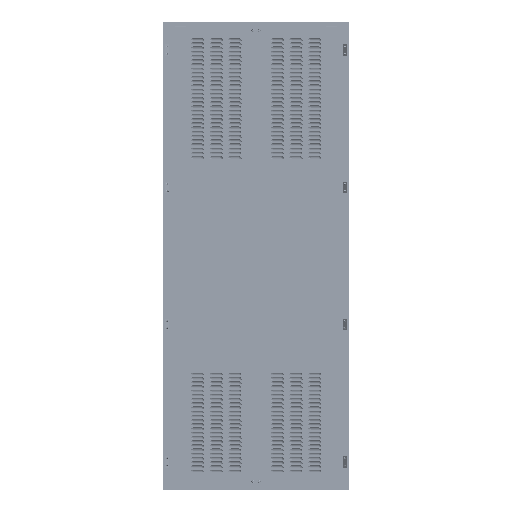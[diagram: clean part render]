
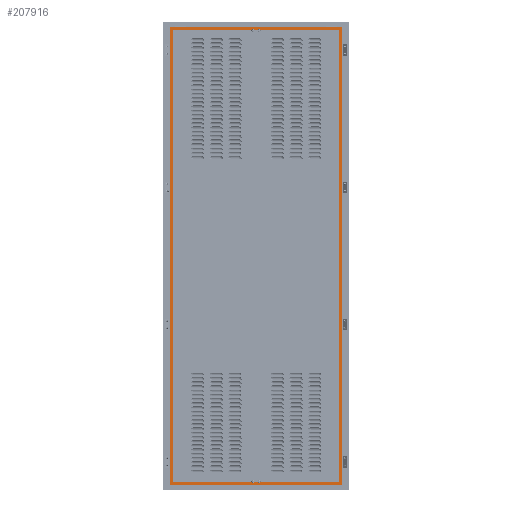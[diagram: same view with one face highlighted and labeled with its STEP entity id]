
A CAD part, top view. The second image highlights one B-rep face of the part: STEP entity #207916.
In plain terms, the highlighted planar face has unit normal (0, 0, 1).
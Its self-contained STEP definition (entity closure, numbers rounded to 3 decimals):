
#245 = VERTEX_POINT ( 'NONE', #62206 ) ;
#338 = CARTESIAN_POINT ( 'NONE',  ( -354.175, -1755.458, -2.05 ) ) ;
#970 = VERTEX_POINT ( 'NONE', #139896 ) ;
#2300 = ORIENTED_EDGE ( 'NONE', *, *, #21486, .F. ) ;
#2507 = VECTOR ( 'NONE', #90083, 1000. ) ;
#3404 = DIRECTION ( 'NONE',  ( -1., 0., 0. ) ) ;
#4337 = EDGE_CURVE ( 'NONE', #58758, #39083, #163781, .T. ) ;
#6996 = DIRECTION ( 'NONE',  ( 0., 1., 0. ) ) ;
#13794 = EDGE_CURVE ( 'NONE', #85144, #172228, #188588, .T. ) ;
#17428 = CARTESIAN_POINT ( 'NONE',  ( -354.175, -43.458, -2.05 ) ) ;
#18117 = AXIS2_PLACEMENT_3D ( 'NONE', #155357, #139000, #36655 ) ;
#20815 = EDGE_CURVE ( 'NONE', #138868, #970, #87721, .T. ) ;
#21486 = EDGE_CURVE ( 'NONE', #62301, #138868, #110222, .T. ) ;
#22403 = CARTESIAN_POINT ( 'NONE',  ( -354.175, -1764.134, -2.05 ) ) ;
#22418 = FACE_BOUND ( 'NONE', #49782, .T. ) ;
#26244 = CARTESIAN_POINT ( 'NONE',  ( 145.5, 165.217, -2.05 ) ) ;
#28041 = VECTOR ( 'NONE', #115822, 1000. ) ;
#28779 = LINE ( 'NONE', #198683, #28041 ) ;
#34122 = DIRECTION ( 'NONE',  ( 0., -1., 0. ) ) ;
#35149 = LINE ( 'NONE', #101636, #79868 ) ;
#35965 = CARTESIAN_POINT ( 'NONE',  ( -354.175, -1778.258, -2.05 ) ) ;
#36655 = DIRECTION ( 'NONE',  ( 1., 0., 0. ) ) ;
#36976 = LINE ( 'NONE', #103450, #122681 ) ;
#37716 = PLANE ( 'NONE',  #18117 ) ;
#37767 = EDGE_CURVE ( 'NONE', #190667, #149673, #36976, .T. ) ;
#39083 = VERTEX_POINT ( 'NONE', #124060 ) ;
#41376 = VECTOR ( 'NONE', #59028, 1000. ) ;
#47045 = EDGE_CURVE ( 'NONE', #245, #135831, #102459, .T. ) ;
#49782 = EDGE_LOOP ( 'NONE', ( #167086, #62469, #190476, #109336, #2300, #106364, #148460, #165712, #137804, #98719, #112848, #155671 ) ) ;
#50152 = EDGE_CURVE ( 'NONE', #202517, #66360, #121841, .T. ) ;
#51468 = CARTESIAN_POINT ( 'NONE',  ( 354.175, -1764.134, -2.05 ) ) ;
#52183 = ORIENTED_EDGE ( 'NONE', *, *, #4337, .F. ) ;
#58758 = VERTEX_POINT ( 'NONE', #164891 ) ;
#59028 = DIRECTION ( 'NONE',  ( 0., 1., 0. ) ) ;
#61647 = ORIENTED_EDGE ( 'NONE', *, *, #146325, .F. ) ;
#62206 = CARTESIAN_POINT ( 'NONE',  ( -354.175, -1755.458, -2.05 ) ) ;
#62301 = VERTEX_POINT ( 'NONE', #51468 ) ;
#62469 = ORIENTED_EDGE ( 'NONE', *, *, #13794, .F. ) ;
#64364 = DIRECTION ( 'NONE',  ( 0., -1., 0. ) ) ;
#65013 = ORIENTED_EDGE ( 'NONE', *, *, #213174, .F. ) ;
#66360 = VERTEX_POINT ( 'NONE', #171417 ) ;
#72541 = FACE_OUTER_BOUND ( 'NONE', #190201, .T. ) ;
#75343 = CARTESIAN_POINT ( 'NONE',  ( -145.5, -1764.134, -2.05 ) ) ;
#79868 = VECTOR ( 'NONE', #165927, 1000. ) ;
#79886 = DIRECTION ( 'NONE',  ( 0., -1., 0. ) ) ;
#85005 = LINE ( 'NONE', #17428, #141580 ) ;
#85144 = VERTEX_POINT ( 'NONE', #96985 ) ;
#87721 = LINE ( 'NONE', #89856, #204746 ) ;
#89185 = CARTESIAN_POINT ( 'NONE',  ( -354.175, -43.458, -2.05 ) ) ;
#89856 = CARTESIAN_POINT ( 'NONE',  ( 354.175, -1755.458, -2.05 ) ) ;
#90083 = DIRECTION ( 'NONE',  ( 0., 1., 0. ) ) ;
#95167 = LINE ( 'NONE', #161598, #113936 ) ;
#96985 = CARTESIAN_POINT ( 'NONE',  ( 354.175, 165.217, -2.05 ) ) ;
#98719 = ORIENTED_EDGE ( 'NONE', *, *, #115142, .F. ) ;
#101636 = CARTESIAN_POINT ( 'NONE',  ( 145.5, -1764.134, -2.05 ) ) ;
#102459 = LINE ( 'NONE', #35965, #131077 ) ;
#103450 = CARTESIAN_POINT ( 'NONE',  ( 0., -1764.134, -2.05 ) ) ;
#104957 = LINE ( 'NONE', #154015, #151102 ) ;
#106364 = ORIENTED_EDGE ( 'NONE', *, *, #215676, .F. ) ;
#109336 = ORIENTED_EDGE ( 'NONE', *, *, #20815, .F. ) ;
#109831 = VERTEX_POINT ( 'NONE', #200362 ) ;
#110222 = LINE ( 'NONE', #126547, #41376 ) ;
#112848 = ORIENTED_EDGE ( 'NONE', *, *, #167020, .F. ) ;
#113936 = VECTOR ( 'NONE', #79886, 1000. ) ;
#114209 = VECTOR ( 'NONE', #124340, 1000. ) ;
#115142 = EDGE_CURVE ( 'NONE', #125816, #245, #116918, .T. ) ;
#115822 = DIRECTION ( 'NONE',  ( -1., 0., 0. ) ) ;
#116918 = LINE ( 'NONE', #338, #151398 ) ;
#121841 = LINE ( 'NONE', #205776, #124952 ) ;
#122681 = VECTOR ( 'NONE', #157827, 1000. ) ;
#124060 = CARTESIAN_POINT ( 'NONE',  ( 366.117, 177.159, -2.05 ) ) ;
#124340 = DIRECTION ( 'NONE',  ( 1., 0., 0. ) ) ;
#124952 = VECTOR ( 'NONE', #185111, 1000. ) ;
#125431 = LINE ( 'NONE', #75343, #114209 ) ;
#125463 = CARTESIAN_POINT ( 'NONE',  ( -145.5, -1764.134, -2.05 ) ) ;
#125816 = VERTEX_POINT ( 'NONE', #89185 ) ;
#126547 = CARTESIAN_POINT ( 'NONE',  ( 354.175, -1778.258, -2.05 ) ) ;
#127035 = LINE ( 'NONE', #189206, #2507 ) ;
#129439 = LINE ( 'NONE', #146873, #185981 ) ;
#130465 = CARTESIAN_POINT ( 'NONE',  ( 145.5, -1764.134, -2.05 ) ) ;
#131077 = VECTOR ( 'NONE', #134019, 1000. ) ;
#131264 = EDGE_CURVE ( 'NONE', #135831, #190667, #125431, .T. ) ;
#134019 = DIRECTION ( 'NONE',  ( 0., -1., 0. ) ) ;
#135831 = VERTEX_POINT ( 'NONE', #22403 ) ;
#137804 = ORIENTED_EDGE ( 'NONE', *, *, #47045, .F. ) ;
#138868 = VERTEX_POINT ( 'NONE', #145472 ) ;
#139000 = DIRECTION ( 'NONE',  ( 0., 0., 1. ) ) ;
#139896 = CARTESIAN_POINT ( 'NONE',  ( 354.175, -43.458, -2.05 ) ) ;
#141195 = CARTESIAN_POINT ( 'NONE',  ( -354.175, 165.217, -2.05 ) ) ;
#141580 = VECTOR ( 'NONE', #64364, 1000. ) ;
#145472 = CARTESIAN_POINT ( 'NONE',  ( 354.175, -1755.458, -2.05 ) ) ;
#146325 = EDGE_CURVE ( 'NONE', #66360, #58758, #127035, .T. ) ;
#146873 = CARTESIAN_POINT ( 'NONE',  ( 354.175, -43.458, -2.05 ) ) ;
#148460 = ORIENTED_EDGE ( 'NONE', *, *, #37767, .F. ) ;
#149673 = VERTEX_POINT ( 'NONE', #130465 ) ;
#151102 = VECTOR ( 'NONE', #203085, 1000. ) ;
#151398 = VECTOR ( 'NONE', #34122, 1000. ) ;
#154015 = CARTESIAN_POINT ( 'NONE',  ( 145.5, 165.217, -2.05 ) ) ;
#155357 = CARTESIAN_POINT ( 'NONE',  ( 0., 0., -2.05 ) ) ;
#155671 = ORIENTED_EDGE ( 'NONE', *, *, #170950, .F. ) ;
#155989 = CARTESIAN_POINT ( 'NONE',  ( 366.117, -1776.076, -2.05 ) ) ;
#157827 = DIRECTION ( 'NONE',  ( 1., 0., 0. ) ) ;
#161598 = CARTESIAN_POINT ( 'NONE',  ( 366.117, 0., -2.05 ) ) ;
#163781 = LINE ( 'NONE', #208560, #185550 ) ;
#164891 = CARTESIAN_POINT ( 'NONE',  ( -366.117, 177.159, -2.05 ) ) ;
#165712 = ORIENTED_EDGE ( 'NONE', *, *, #131264, .F. ) ;
#165927 = DIRECTION ( 'NONE',  ( 1., 0., 0. ) ) ;
#167020 = EDGE_CURVE ( 'NONE', #186831, #125816, #85005, .T. ) ;
#167086 = ORIENTED_EDGE ( 'NONE', *, *, #183764, .F. ) ;
#170950 = EDGE_CURVE ( 'NONE', #109831, #186831, #28779, .T. ) ;
#171417 = CARTESIAN_POINT ( 'NONE',  ( -366.117, -1776.076, -2.05 ) ) ;
#172228 = VERTEX_POINT ( 'NONE', #26244 ) ;
#180155 = DIRECTION ( 'NONE',  ( 1., 0., 0. ) ) ;
#183764 = EDGE_CURVE ( 'NONE', #172228, #109831, #104957, .T. ) ;
#185111 = DIRECTION ( 'NONE',  ( -1., 0., 0. ) ) ;
#185550 = VECTOR ( 'NONE', #180155, 1000. ) ;
#185981 = VECTOR ( 'NONE', #198094, 1000. ) ;
#186831 = VERTEX_POINT ( 'NONE', #141195 ) ;
#187535 = CARTESIAN_POINT ( 'NONE',  ( 368.3, 165.217, -2.05 ) ) ;
#188588 = LINE ( 'NONE', #187535, #199602 ) ;
#189206 = CARTESIAN_POINT ( 'NONE',  ( -366.117, 0., -2.05 ) ) ;
#190201 = EDGE_LOOP ( 'NONE', ( #61647, #209160, #65013, #52183 ) ) ;
#190476 = ORIENTED_EDGE ( 'NONE', *, *, #210678, .F. ) ;
#190667 = VERTEX_POINT ( 'NONE', #125463 ) ;
#198094 = DIRECTION ( 'NONE',  ( 0., 1., 0. ) ) ;
#198683 = CARTESIAN_POINT ( 'NONE',  ( -368.3, 165.217, -2.05 ) ) ;
#199602 = VECTOR ( 'NONE', #3404, 1000. ) ;
#200362 = CARTESIAN_POINT ( 'NONE',  ( -145.5, 165.217, -2.05 ) ) ;
#202517 = VERTEX_POINT ( 'NONE', #155989 ) ;
#203085 = DIRECTION ( 'NONE',  ( -1., 0., 0. ) ) ;
#204746 = VECTOR ( 'NONE', #6996, 1000. ) ;
#205776 = CARTESIAN_POINT ( 'NONE',  ( 0., -1776.076, -2.05 ) ) ;
#207916 = ADVANCED_FACE ( 'NONE', ( #72541, #22418 ), #37716, .T. ) ;
#208560 = CARTESIAN_POINT ( 'NONE',  ( 0., 177.159, -2.05 ) ) ;
#209160 = ORIENTED_EDGE ( 'NONE', *, *, #50152, .F. ) ;
#210678 = EDGE_CURVE ( 'NONE', #970, #85144, #129439, .T. ) ;
#213174 = EDGE_CURVE ( 'NONE', #39083, #202517, #95167, .T. ) ;
#215676 = EDGE_CURVE ( 'NONE', #149673, #62301, #35149, .T. ) ;
